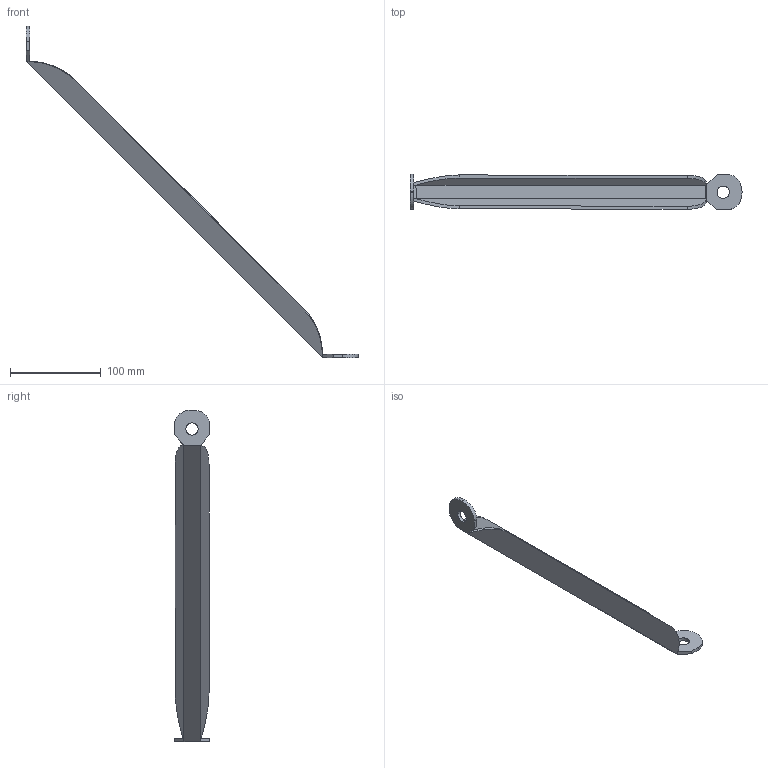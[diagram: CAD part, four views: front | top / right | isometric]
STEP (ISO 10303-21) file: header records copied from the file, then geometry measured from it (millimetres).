
FILE_DESCRIPTION(('TurboCAD Mac Pro'),'Build 980');
FILE_NAME('P2458-18.stp',' ',(''),(''),'ACIS Interop','IMSI','TurboCAD Mac Pro BY IMSI, INCORPORATED');
FILE_SCHEMA(('automotive_design'));
Length unit declared in the file: inch
Products named in the file (2): 1; 2
Bounding box: 364.94 x 38.9 x 364.72 mm (x, y, z)
Volume: 97842.1 mm3; surface area: 63209.5 mm2
Topology: 2 solids, 2 shells, 47 faces, 127 edges, 84 vertices
Faces by surface type: plane 30, bspline 17
Entity records: 2251 total; most frequent: CARTESIAN_POINT 784, ORIENTED_EDGE 254, DIRECTION 142, EDGE_CURVE 127, VERTEX_POINT 84, LINE 78, VECTOR 78, EDGE_LOOP 51
